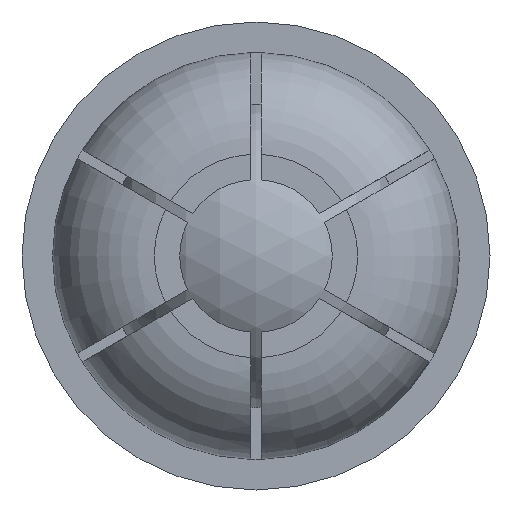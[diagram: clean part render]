
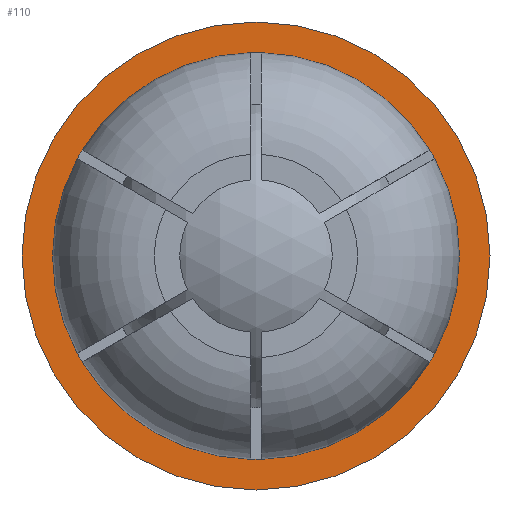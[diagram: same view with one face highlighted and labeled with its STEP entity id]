
A CAD part, left-side view. The second image highlights one B-rep face of the part: STEP entity #110.
In plain terms, the highlighted planar face has unit normal (-1, 0, 0).
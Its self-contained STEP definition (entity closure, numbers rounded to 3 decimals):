
#110 = ADVANCED_FACE( '', ( #213, #214 ), #215, .F. );
#213 = FACE_OUTER_BOUND( '', #346, .T. );
#214 = FACE_BOUND( '', #347, .T. );
#215 = PLANE( '', #348 );
#346 = EDGE_LOOP( '', ( #707 ) );
#347 = EDGE_LOOP( '', ( #708 ) );
#348 = AXIS2_PLACEMENT_3D( '', #709, #710, #711 );
#707 = ORIENTED_EDGE( '', *, *, #1044, .F. );
#708 = ORIENTED_EDGE( '', *, *, #1045, .T. );
#709 = CARTESIAN_POINT( '', ( 0., 2., 0. ) );
#710 = DIRECTION( '', ( 1., 0., 0. ) );
#711 = DIRECTION( '', ( 0., 0., -1. ) );
#1044 = EDGE_CURVE( '', #1301, #1301, #1302, .T. );
#1045 = EDGE_CURVE( '', #1303, #1303, #1304, .T. );
#1301 = VERTEX_POINT( '', #1793 );
#1302 = CIRCLE( '', #1794, 2.3 );
#1303 = VERTEX_POINT( '', #1795 );
#1304 = CIRCLE( '', #1796, 2. );
#1793 = CARTESIAN_POINT( '', ( 0., 0., -2.3 ) );
#1794 = AXIS2_PLACEMENT_3D( '', #2009, #2010, #2011 );
#1795 = CARTESIAN_POINT( '', ( 0., 0., -2. ) );
#1796 = AXIS2_PLACEMENT_3D( '', #2012, #2013, #2014 );
#2009 = CARTESIAN_POINT( '', ( 0., 0., 0. ) );
#2010 = DIRECTION( '', ( 1., 0., 0. ) );
#2011 = DIRECTION( '', ( 0., 0., -1. ) );
#2012 = CARTESIAN_POINT( '', ( 0., 0., 0. ) );
#2013 = DIRECTION( '', ( 1., 0., 0. ) );
#2014 = DIRECTION( '', ( 0., 0., -1. ) );
